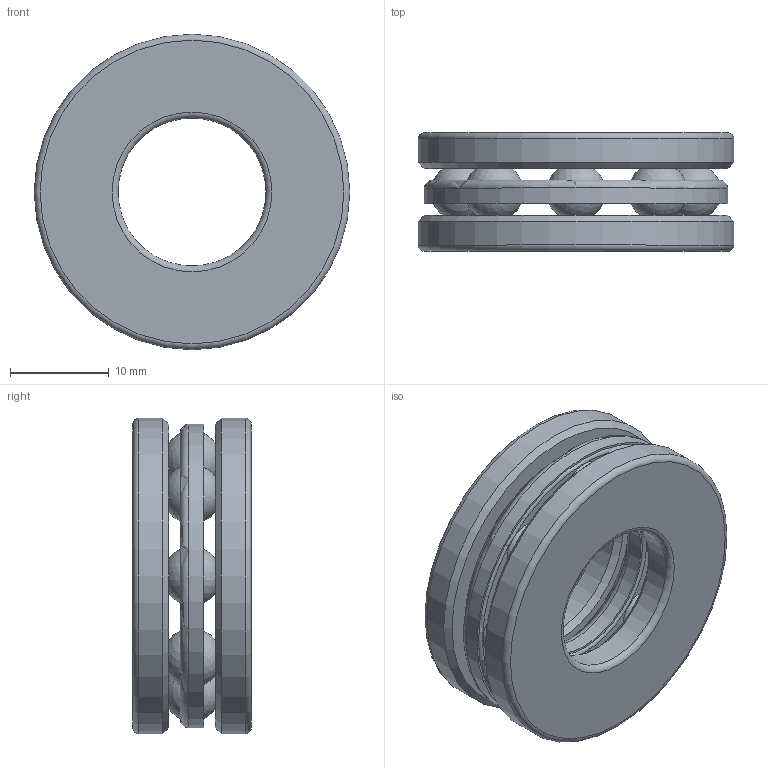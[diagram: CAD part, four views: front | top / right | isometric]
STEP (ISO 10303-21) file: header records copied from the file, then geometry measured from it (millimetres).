
FILE_DESCRIPTION(/* description */ (''),/* implementation_level */ '2;1');
FILE_NAME(/* name */ 'D:\moje\parametrické\512--\512--_\51202.stp',/* time_stamp */ '2016-07-11T14:53:15+02:00',/* author */ ('OUBALASKO'),/* organization */ (''),/* preprocessor_version */ 'ST-DEVELOPER v15.6',/* originating_system */ 'Autodesk Inventor 2015',/* authorisation */ '');
FILE_SCHEMA (('AUTOMOTIVE_DESIGN { 1 0 10303 214 3 1 1 }'));
Length unit declared in the file: millimetre
Products named in the file (7): 51202-HK; 51202-TK; 51202-ball; 51202-cage01; 51202-cage02; 51202-cage; 51202
Assembly tree (13 placements, depth 3):
  51202
    51202-HK
    51202-TK
    51202-ball  x8
    51202-cage
      51202-cage01
      51202-cage02
Bounding box: 32 x 12 x 32 mm (x, y, z)
Volume: 5177.3 mm3; surface area: 6535.4 mm2
Topology: 12 solids, 12 shells, 114 faces, 242 edges, 140 vertices
Faces by surface type: plane 60, sphere 24, torus 14, cylinder 12, cone 4
Full cylindrical faces by diameter (mm): 15 x1, 16.216 x1, 16.633 x1, 16.833 x1, 17 x1, 17.249 x1, 29.751 x1, 30.167 x1, 30.367 x1, 30.784 x1, 32 x2
Entity records: 2956 total; most frequent: DIRECTION 624, CARTESIAN_POINT 434, ORIENTED_EDGE 370, AXIS2_PLACEMENT_3D 312, CIRCLE 185, EDGE_CURVE 185, EDGE_LOOP 181, VERTEX_POINT 122
